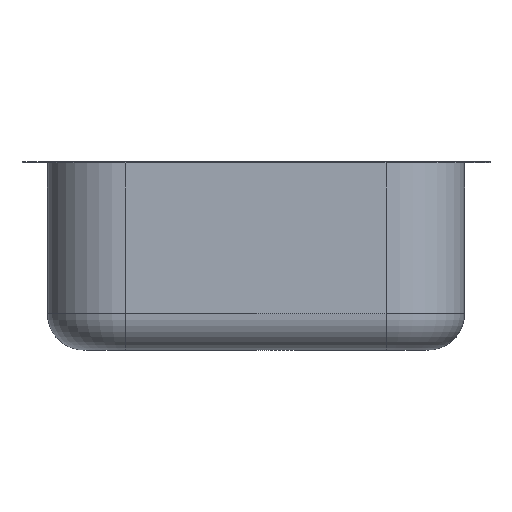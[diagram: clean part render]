
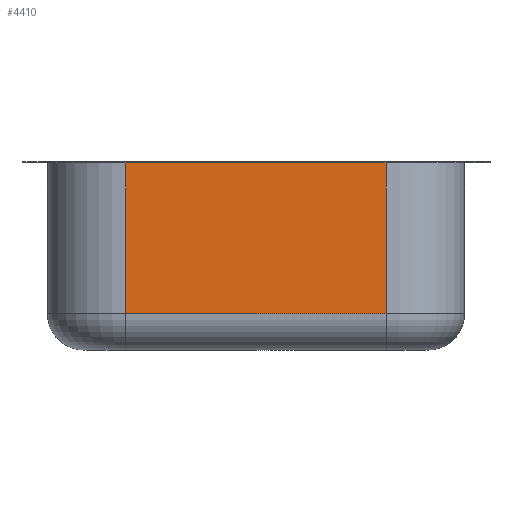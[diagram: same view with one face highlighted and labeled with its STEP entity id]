
A CAD part, left-side view. The second image highlights one B-rep face of the part: STEP entity #4410.
In plain terms, the highlighted planar face has unit normal (-1, 0, 0).
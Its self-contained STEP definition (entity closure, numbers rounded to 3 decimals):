
#4234=CARTESIAN_POINT('Vertex',(-355.6,125.,-145.)) ;
#4237=CARTESIAN_POINT('Line Origine',(-355.6,125.,-90.)) ;
#4241=CARTESIAN_POINT('Vertex',(-355.6,125.,0.)) ;
#4380=CARTESIAN_POINT('Axis2P3D Location',(-355.6,125.,0.)) ;
#4385=CARTESIAN_POINT('Line Origine',(-355.6,0.,-145.)) ;
#4389=CARTESIAN_POINT('Vertex',(-355.6,-125.,-145.)) ;
#4392=CARTESIAN_POINT('Line Origine',(-355.6,-125.,-72.5)) ;
#4396=CARTESIAN_POINT('Vertex',(-355.6,-125.,0.)) ;
#4399=CARTESIAN_POINT('Line Origine',(-355.6,0.,0.)) ;
#4238=DIRECTION('Vector Direction',(0.,0.,-1.)) ;
#4381=DIRECTION('Axis2P3D Direction',(1.,0.,0.)) ;
#4382=DIRECTION('Axis2P3D XDirection',(0.,-1.,0.)) ;
#4386=DIRECTION('Vector Direction',(0.,-1.,0.)) ;
#4393=DIRECTION('Vector Direction',(0.,0.,-1.)) ;
#4400=DIRECTION('Vector Direction',(0.,-1.,0.)) ;
#4383=AXIS2_PLACEMENT_3D('Plane Axis2P3D',#4380,#4381,#4382) ;
#4405=ORIENTED_EDGE('',*,*,#4391,.F.) ;
#4406=ORIENTED_EDGE('',*,*,#4398,.F.) ;
#4407=ORIENTED_EDGE('',*,*,#4403,.T.) ;
#4408=ORIENTED_EDGE('',*,*,#4243,.T.) ;
#4239=VECTOR('Line Direction',#4238,1.) ;
#4387=VECTOR('Line Direction',#4386,1.) ;
#4394=VECTOR('Line Direction',#4393,1.) ;
#4401=VECTOR('Line Direction',#4400,1.) ;
#4410=ADVANCED_FACE('Vasca-CTP',(#4409),#4384,.F.) ;
#4243=EDGE_CURVE('',#4242,#4235,#4240,.T.) ;
#4391=EDGE_CURVE('',#4390,#4235,#4388,.F.) ;
#4398=EDGE_CURVE('',#4397,#4390,#4395,.T.) ;
#4403=EDGE_CURVE('',#4397,#4242,#4402,.F.) ;
#4404=EDGE_LOOP('',(#4405,#4406,#4407,#4408)) ;
#4409=FACE_OUTER_BOUND('',#4404,.T.) ;
#4240=LINE('Line',#4237,#4239) ;
#4388=LINE('Line',#4385,#4387) ;
#4395=LINE('Line',#4392,#4394) ;
#4402=LINE('Line',#4399,#4401) ;
#4384=PLANE('',#4383) ;
#4235=VERTEX_POINT('',#4234) ;
#4242=VERTEX_POINT('',#4241) ;
#4390=VERTEX_POINT('',#4389) ;
#4397=VERTEX_POINT('',#4396) ;
